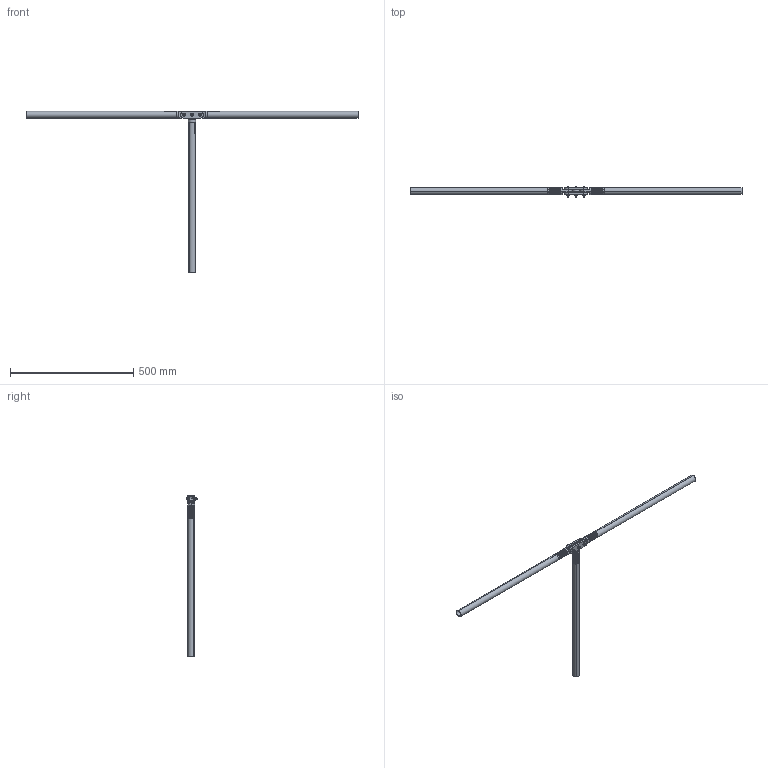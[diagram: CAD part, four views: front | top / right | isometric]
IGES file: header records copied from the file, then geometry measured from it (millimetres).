
Start section: SolidWorks IGES file using analytic representation for surfaces
Global section: file name: \\SERVER3\Design\_NEWDE~1\_DESIG~1\AAI\MODULA~1\SOLIDW~1\DEMONS~1\25DBF2~1.ASS\MODULA~1\83079~1.USE\USEOFL~2\Two Triple Link Connectors to Three Male Clevis Connectors Connection.IGS; native system: SolidWorks 2013; preprocessor: SolidWorks 2013; author: tbraun; date: 130819.122043; units: inch
Bounding box: 1344.47 x 41.45 x 654.77 mm (x, y, z)
Surface area: 361991.8 mm2 (no closed solid volume)
Topology: 0 solids, 0 shells, 1705 faces, 21378 edges, 21369 vertices
Faces by surface type: revolution 1274, bspline 431
